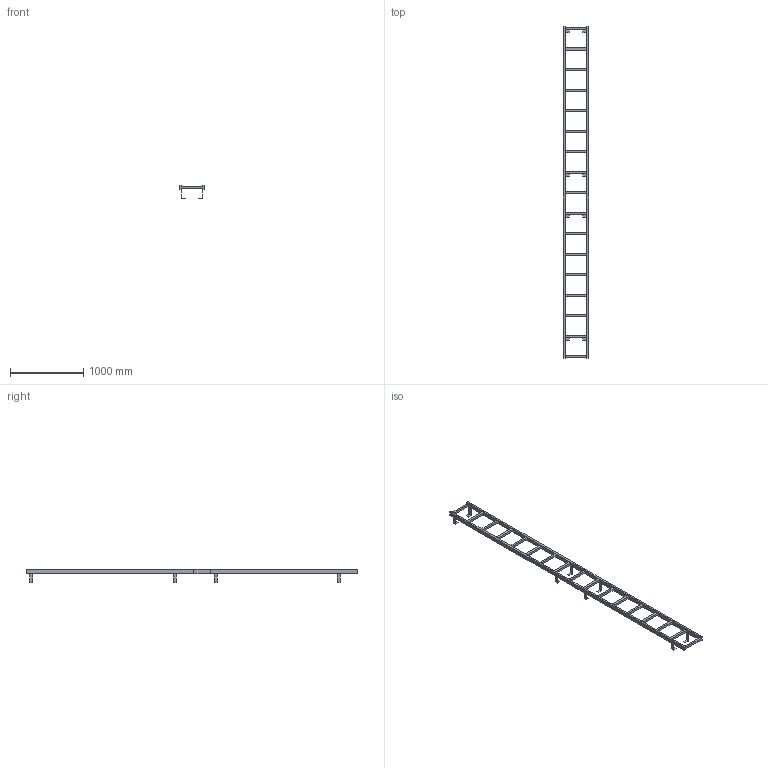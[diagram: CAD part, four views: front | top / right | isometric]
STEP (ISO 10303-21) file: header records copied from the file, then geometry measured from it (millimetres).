
FILE_DESCRIPTION((''),'2;1');
FILE_NAME('52310845','2024-10-17T11:48:02',('wep'),('HUBER SE'),'CREO PARAMETRIC BY PTC INC, 2022162','CREO PARAMETRIC BY PTC INC, 2022162','');
FILE_SCHEMA(('AUTOMOTIVE_DESIGN { 1 0 10303 214 1 1 1 1 }'));
Length unit declared in the file: millimetre
Products named in the file (1): 52310845
Bounding box: 350 x 4530 x 178.5 mm (x, y, z)
Volume: 17629850 mm3; surface area: 2203250.4 mm2
Topology: 4 solids, 4 shells, 164 faces, 468 edges, 304 vertices
Faces by surface type: plane 164
Entity records: 5823 total; most frequent: CARTESIAN_POINT 938, ORIENTED_EDGE 936, DIRECTION 796, VECTOR 468, LINE 468, EDGE_CURVE 468, VERTEX_POINT 304, EDGE_LOOP 186
